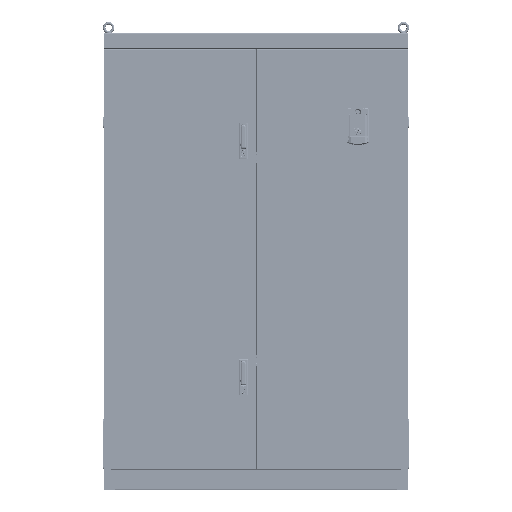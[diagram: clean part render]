
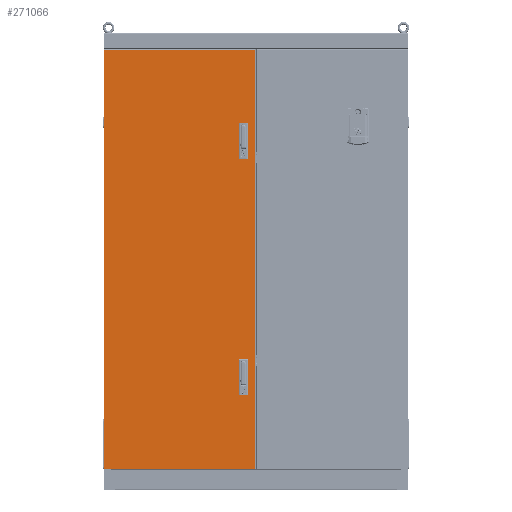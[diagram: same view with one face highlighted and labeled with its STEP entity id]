
A CAD part, front view. The second image highlights one B-rep face of the part: STEP entity #271066.
In plain terms, the highlighted planar face has unit normal (0, -1, 0).
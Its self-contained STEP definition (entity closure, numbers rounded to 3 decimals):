
#267681=DIRECTION('',(-1.,0.,0.));
#267682=VECTOR('',#267681,594.6);
#267683=CARTESIAN_POINT('',(297.3,-1.5,-826.5));
#267684=LINE('',#267683,#267682);
#267811=DIRECTION('',(0.,0.,1.));
#267812=VECTOR('',#267811,1653.);
#267813=CARTESIAN_POINT('',(-297.3,-1.5,-826.5));
#267814=LINE('',#267813,#267812);
#268185=DIRECTION('',(1.,0.,0.));
#268186=VECTOR('',#268185,594.6);
#268187=CARTESIAN_POINT('',(-297.3,-1.5,826.5));
#268188=LINE('',#268187,#268186);
#268813=DIRECTION('',(0.,0.,-1.));
#268814=VECTOR('',#268813,1653.);
#268815=CARTESIAN_POINT('',(297.3,-1.5,826.5));
#268816=LINE('',#268815,#268814);
#268849=CARTESIAN_POINT('',(-251.,-1.5,-412.));
#268850=DIRECTION('',(0.,-1.,0.));
#268851=DIRECTION('',(1.,0.,0.));
#268852=AXIS2_PLACEMENT_3D('',#268849,#268850,#268851);
#268857=DIRECTION('',(0.,0.,1.));
#268858=VECTOR('',#268857,108.);
#268859=CARTESIAN_POINT('',(-266.,-1.5,-520.));
#268860=LINE('',#268859,#268858);
#268864=CARTESIAN_POINT('',(-251.,-1.5,-520.));
#268865=DIRECTION('',(0.,-1.,0.));
#268866=DIRECTION('',(-1.,0.,0.));
#268867=AXIS2_PLACEMENT_3D('',#268864,#268865,#268866);
#268872=DIRECTION('',(0.,0.,-1.));
#268873=VECTOR('',#268872,108.);
#268874=CARTESIAN_POINT('',(-236.,-1.5,-412.));
#268875=LINE('',#268874,#268873);
#268879=DIRECTION('',(0.,0.,1.));
#268880=VECTOR('',#268879,108.);
#268881=CARTESIAN_POINT('',(-266.,-1.5,412.));
#268882=LINE('',#268881,#268880);
#268886=CARTESIAN_POINT('',(-251.,-1.5,412.));
#268887=DIRECTION('',(0.,-1.,0.));
#268888=DIRECTION('',(-1.,0.,0.));
#268889=AXIS2_PLACEMENT_3D('',#268886,#268887,#268888);
#268894=DIRECTION('',(0.,0.,-1.));
#268895=VECTOR('',#268894,108.);
#268896=CARTESIAN_POINT('',(-236.,-1.5,520.));
#268897=LINE('',#268896,#268895);
#268901=CARTESIAN_POINT('',(-251.,-1.5,520.));
#268902=DIRECTION('',(0.,-1.,0.));
#268903=DIRECTION('',(1.,0.,0.));
#268904=AXIS2_PLACEMENT_3D('',#268901,#268902,#268903);
#269507=CARTESIAN_POINT('',(-297.3,-1.5,-826.5));
#269508=VERTEX_POINT('',#269507);
#269509=CARTESIAN_POINT('',(297.3,-1.5,-826.5));
#269510=VERTEX_POINT('',#269509);
#269517=CARTESIAN_POINT('',(-297.3,-1.5,826.5));
#269518=VERTEX_POINT('',#269517);
#269521=CARTESIAN_POINT('',(297.3,-1.5,826.5));
#269522=VERTEX_POINT('',#269521);
#269631=CARTESIAN_POINT('',(-266.,-1.5,412.));
#269632=CARTESIAN_POINT('',(-266.,-1.5,520.));
#269633=VERTEX_POINT('',#269631);
#269634=VERTEX_POINT('',#269632);
#269635=CARTESIAN_POINT('',(-236.,-1.5,520.));
#269636=CARTESIAN_POINT('',(-236.,-1.5,412.));
#269637=VERTEX_POINT('',#269635);
#269638=VERTEX_POINT('',#269636);
#269695=CARTESIAN_POINT('',(-236.,-1.5,-412.));
#269696=CARTESIAN_POINT('',(-266.,-1.5,-412.));
#269697=VERTEX_POINT('',#269695);
#269698=VERTEX_POINT('',#269696);
#269699=CARTESIAN_POINT('',(-236.,-1.5,-520.));
#269700=VERTEX_POINT('',#269699);
#269701=CARTESIAN_POINT('',(-266.,-1.5,-520.));
#269702=VERTEX_POINT('',#269701);
#271035=CARTESIAN_POINT('',(0.,-1.5,0.));
#271036=DIRECTION('',(0.,1.,0.));
#271037=DIRECTION('',(1.,0.,0.));
#271038=AXIS2_PLACEMENT_3D('',#271035,#271036,#271037);
#271039=PLANE('',#271038);
#271040=ORIENTED_EDGE('',*,*,#270180,.T.);
#271041=ORIENTED_EDGE('',*,*,#270519,.T.);
#271042=ORIENTED_EDGE('',*,*,#271015,.T.);
#271043=ORIENTED_EDGE('',*,*,#270074,.T.);
#271044=EDGE_LOOP('',(#271040,#271041,#271042,#271043));
#271045=FACE_OUTER_BOUND('',#271044,.F.);
#271047=ORIENTED_EDGE('',*,*,#271046,.T.);
#271049=ORIENTED_EDGE('',*,*,#271048,.F.);
#271051=ORIENTED_EDGE('',*,*,#271050,.T.);
#271053=ORIENTED_EDGE('',*,*,#271052,.F.);
#271054=EDGE_LOOP('',(#271047,#271049,#271051,#271053));
#271055=FACE_BOUND('',#271054,.F.);
#271057=ORIENTED_EDGE('',*,*,#271056,.F.);
#271059=ORIENTED_EDGE('',*,*,#271058,.T.);
#271061=ORIENTED_EDGE('',*,*,#271060,.F.);
#271063=ORIENTED_EDGE('',*,*,#271062,.T.);
#271064=EDGE_LOOP('',(#271057,#271059,#271061,#271063));
#271065=FACE_BOUND('',#271064,.F.);
#268853=CIRCLE('',#268852,15.);
#268868=CIRCLE('',#268867,15.);
#268890=CIRCLE('',#268889,15.);
#268905=CIRCLE('',#268904,15.);
#270074=EDGE_CURVE('',#269510,#269508,#267684,.T.);
#270180=EDGE_CURVE('',#269508,#269518,#267814,.T.);
#270519=EDGE_CURVE('',#269518,#269522,#268188,.T.);
#271015=EDGE_CURVE('',#269522,#269510,#268816,.T.);
#271046=EDGE_CURVE('',#269697,#269698,#268853,.T.);
#271048=EDGE_CURVE('',#269702,#269698,#268860,.T.);
#271050=EDGE_CURVE('',#269702,#269700,#268868,.T.);
#271052=EDGE_CURVE('',#269697,#269700,#268875,.T.);
#271056=EDGE_CURVE('',#269633,#269634,#268882,.T.);
#271058=EDGE_CURVE('',#269633,#269638,#268890,.T.);
#271060=EDGE_CURVE('',#269637,#269638,#268897,.T.);
#271062=EDGE_CURVE('',#269637,#269634,#268905,.T.);
#271066=ADVANCED_FACE('',(#271045,#271055,#271065),#271039,.F.);
